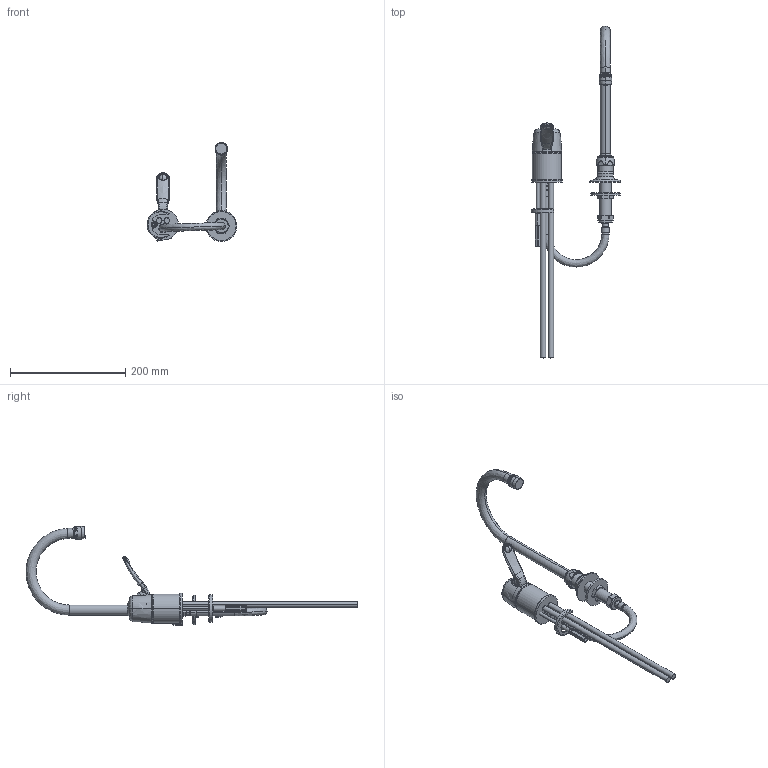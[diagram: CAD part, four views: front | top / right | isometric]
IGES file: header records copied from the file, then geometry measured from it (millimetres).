
Start section:  PTC IGES file: 2302-ABCP_REV031110.igs
Global section: file name: 2302-ABCP_REV031110.igs; native system: Pro/ENGINEER by Parametric Technology Corporation; preprocessor: 2009230; author: sdmitruk; organization: Unknown; date: 20100311.091524; units: inch
Bounding box: 156.2 x 577.2 x 172.32 mm (x, y, z)
Surface area: 107057.8 mm2 (no closed solid volume)
Topology: 0 solids, 35 shells, 303 faces, 845 edges, 564 vertices
Faces by surface type: revolution 187, bspline 116
